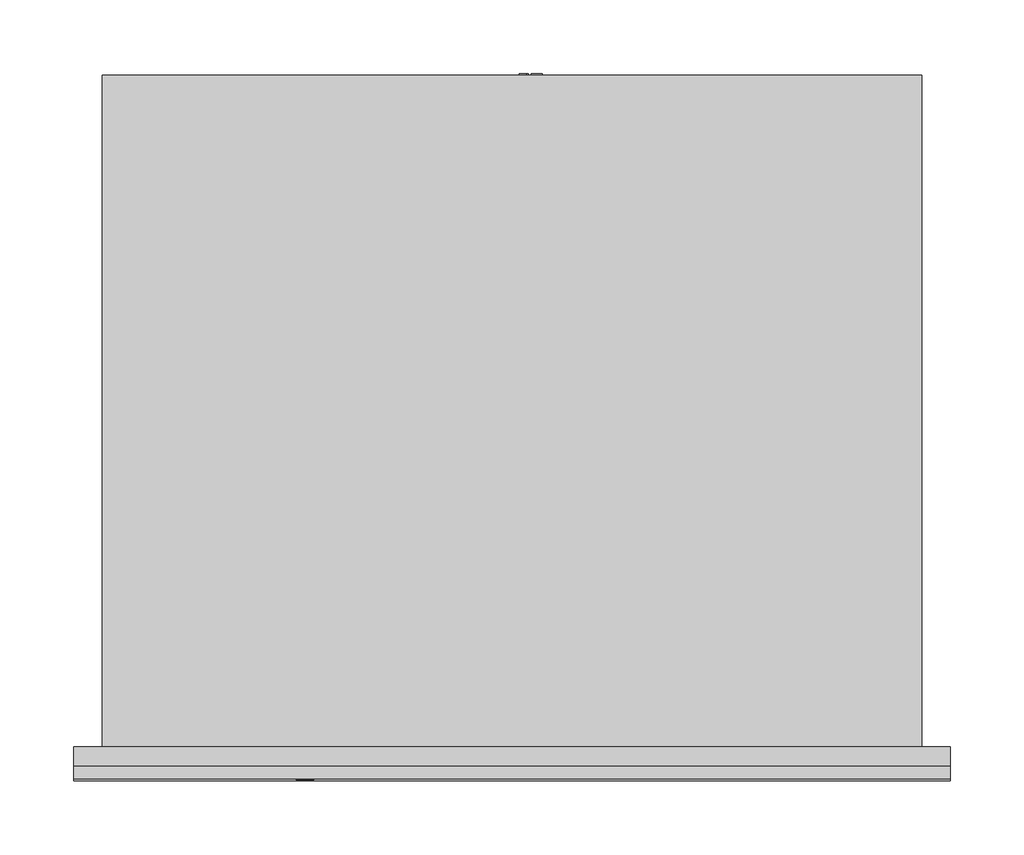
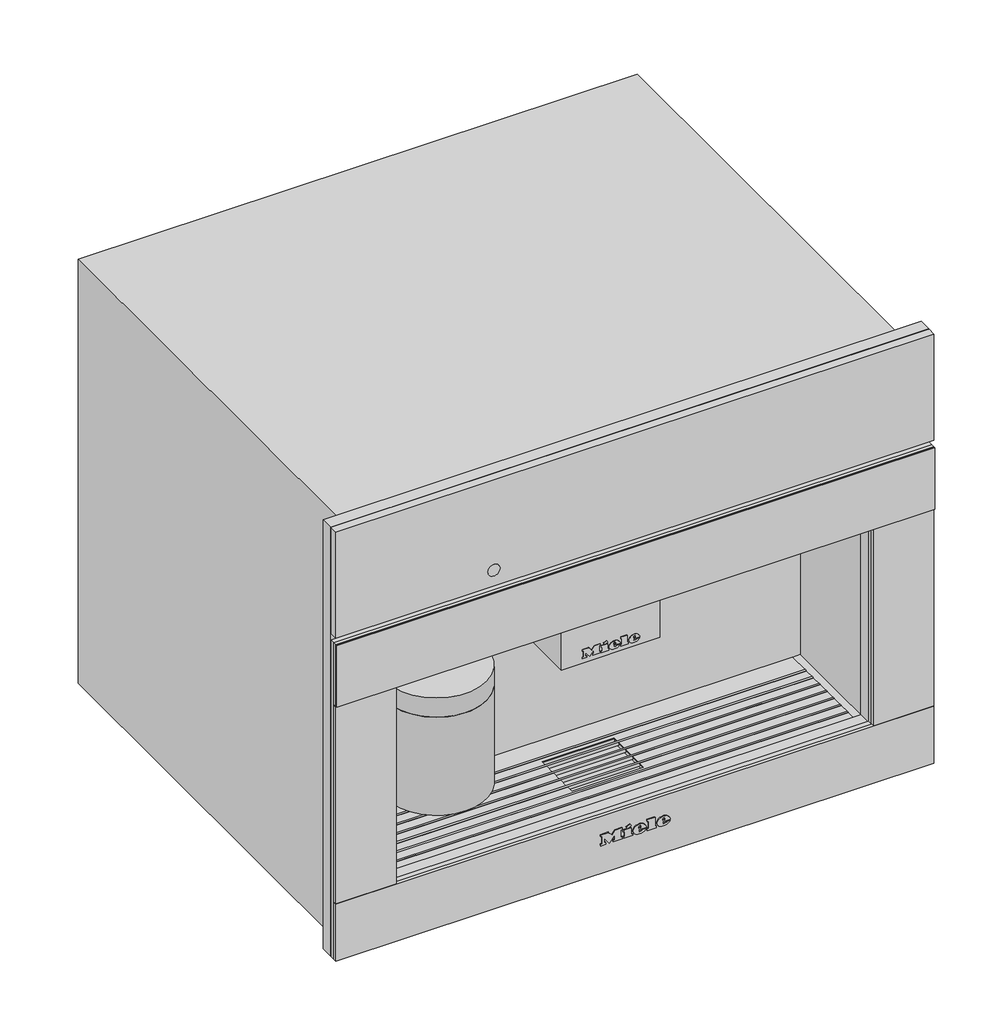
# Not in any storey: 1 proxy.
"""IFC4 building model written with IfcOpenShell, lengths in millimetres."""

from ifc_helpers import new_model, si_unit, origin, place, context, project, spatial, transform, mapped, element, save
from components import specialty_equipment_4403b52b

model = new_model("IFC4")

# Units and contexts
model_context = context("Model", 3, world=origin())
ifc_project = project(units=[si_unit("LENGTHUNIT", "METRE", prefix="MILLI")], contexts=[model_context])

# Site, building
site = spatial("IfcSite", under=ifc_project)
building = spatial("IfcBuilding", under=site)

# Proxy
placement = place(None, origin())
specialty_equipment_shape = specialty_equipment_4403b52b(model_context)
element("IfcBuildingElementProxy", 1, Name="11165900_NER_CVA7840_EDST-CLST : 29784040_NER_11165900_CVA7840_EDST-CLST", ObjectType="11165900_NER_CVA7840_EDST-CLST : 29784040_NER_11165900_CVA7840_EDST-CLST", at=placement, inside=building, context=model_context, shape_type="MappedRepresentation", body=[
    mapped(specialty_equipment_shape, transform((0.0, 0.0, 0.0), x_axis=(1.0, 0.0, 0.0), y_axis=(0.0, 1.0, 0.0), z_axis=(0.0, 0.0, 1.0))),
])

save(model, "model.ifc")
